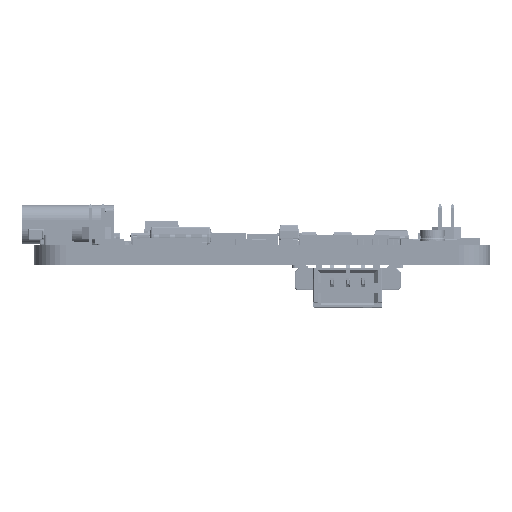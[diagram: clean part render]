
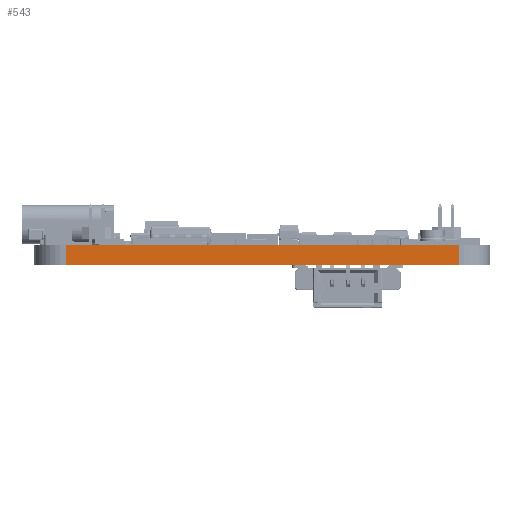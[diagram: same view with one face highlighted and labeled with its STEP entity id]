
A CAD part, left-side view. The second image highlights one B-rep face of the part: STEP entity #543.
In plain terms, the highlighted planar face has unit normal (-1, 0, 0).
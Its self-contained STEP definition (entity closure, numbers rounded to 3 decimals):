
#543 = ADVANCED_FACE('',(#544),#578,.T.);
#544 = FACE_BOUND('',#545,.T.);
#545 = EDGE_LOOP('',(#546,#556,#564,#572));
#546 = ORIENTED_EDGE('',*,*,#547,.T.);
#547 = EDGE_CURVE('',#548,#550,#552,.T.);
#548 = VERTEX_POINT('',#549);
#549 = CARTESIAN_POINT('',(0.,2.5,0.));
#550 = VERTEX_POINT('',#551);
#551 = CARTESIAN_POINT('',(0.,2.5,1.586));
#552 = LINE('',#553,#554);
#553 = CARTESIAN_POINT('',(0.,2.5,0.));
#554 = VECTOR('',#555,1.);
#555 = DIRECTION('',(0.,0.,1.));
#556 = ORIENTED_EDGE('',*,*,#557,.T.);
#557 = EDGE_CURVE('',#550,#558,#560,.T.);
#558 = VERTEX_POINT('',#559);
#559 = CARTESIAN_POINT('',(0.,34.,1.586));
#560 = LINE('',#561,#562);
#561 = CARTESIAN_POINT('',(0.,2.5,1.586));
#562 = VECTOR('',#563,1.);
#563 = DIRECTION('',(0.,1.,0.));
#564 = ORIENTED_EDGE('',*,*,#565,.F.);
#565 = EDGE_CURVE('',#566,#558,#568,.T.);
#566 = VERTEX_POINT('',#567);
#567 = CARTESIAN_POINT('',(0.,34.,0.));
#568 = LINE('',#569,#570);
#569 = CARTESIAN_POINT('',(0.,34.,0.));
#570 = VECTOR('',#571,1.);
#571 = DIRECTION('',(0.,0.,1.));
#572 = ORIENTED_EDGE('',*,*,#573,.F.);
#573 = EDGE_CURVE('',#548,#566,#574,.T.);
#574 = LINE('',#575,#576);
#575 = CARTESIAN_POINT('',(0.,2.5,0.));
#576 = VECTOR('',#577,1.);
#577 = DIRECTION('',(0.,1.,0.));
#578 = PLANE('',#579);
#579 = AXIS2_PLACEMENT_3D('',#580,#581,#582);
#580 = CARTESIAN_POINT('',(0.,2.5,0.));
#581 = DIRECTION('',(-1.,0.,0.));
#582 = DIRECTION('',(0.,1.,0.));
